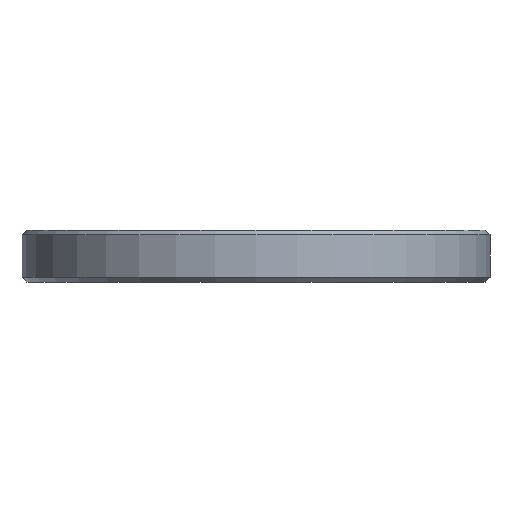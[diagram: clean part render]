
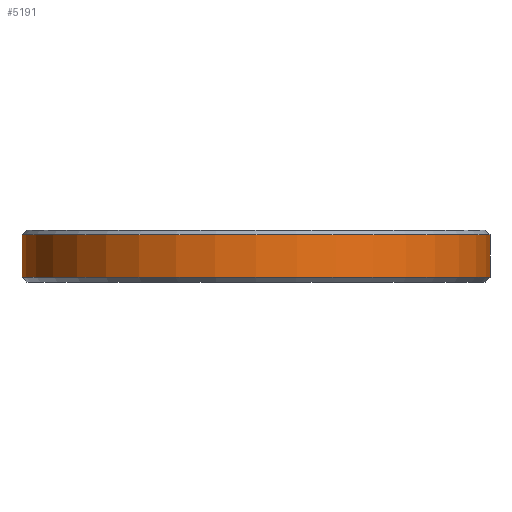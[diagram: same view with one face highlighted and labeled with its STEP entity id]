
A CAD part, front view. The second image highlights one B-rep face of the part: STEP entity #5191.
In plain terms, the highlighted cylindrical face has radius 14.062 mm (diameter 28.125 mm), a full revolution.
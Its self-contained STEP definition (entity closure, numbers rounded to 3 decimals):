
#23=CYLINDRICAL_SURFACE('',#5470,14.063);
#40=CIRCLE('',#5465,14.063);
#44=CIRCLE('',#5471,14.063);
#304=FACE_OUTER_BOUND('',#566,.T.);
#566=EDGE_LOOP('',(#4400,#4401,#4402,#4403));
#1293=LINE('',#8175,#2004);
#2004=VECTOR('',#6698,14.063);
#2480=VERTEX_POINT('',#8158);
#2486=VERTEX_POINT('',#8173);
#3196=EDGE_CURVE('',#2480,#2480,#40,.T.);
#3203=EDGE_CURVE('',#2486,#2486,#44,.T.);
#3204=EDGE_CURVE('',#2486,#2480,#1293,.T.);
#4400=ORIENTED_EDGE('',*,*,#3203,.F.);
#4401=ORIENTED_EDGE('',*,*,#3204,.T.);
#4402=ORIENTED_EDGE('',*,*,#3196,.F.);
#4403=ORIENTED_EDGE('',*,*,#3204,.F.);
#5191=ADVANCED_FACE('',(#304),#23,.T.);
#5465=AXIS2_PLACEMENT_3D('',#8159,#6681,#6682);
#5470=AXIS2_PLACEMENT_3D('',#8172,#6694,#6695);
#5471=AXIS2_PLACEMENT_3D('',#8174,#6696,#6697);
#6681=DIRECTION('center_axis',(0.,0.,-1.));
#6682=DIRECTION('ref_axis',(1.,0.,0.));
#6694=DIRECTION('center_axis',(0.,0.,1.));
#6695=DIRECTION('ref_axis',(1.,0.,0.));
#6696=DIRECTION('center_axis',(0.,0.,1.));
#6697=DIRECTION('ref_axis',(1.,0.,0.));
#6698=DIRECTION('',(0.,0.,-1.));
#8158=CARTESIAN_POINT('',(-14.063,0.,0.3));
#8159=CARTESIAN_POINT('Origin',(0.,0.,0.3));
#8172=CARTESIAN_POINT('Origin',(0.,0.,0.));
#8173=CARTESIAN_POINT('',(-14.063,0.,2.825));
#8174=CARTESIAN_POINT('Origin',(0.,0.,2.825));
#8175=CARTESIAN_POINT('',(-14.063,0.,0.));
